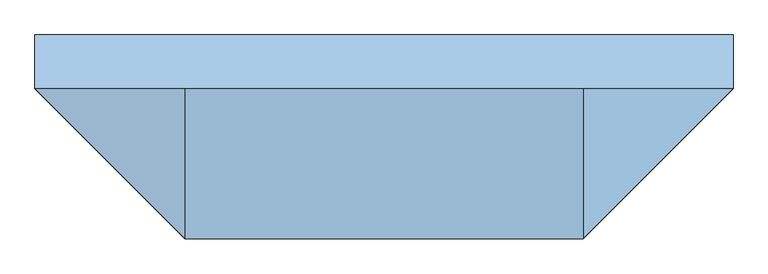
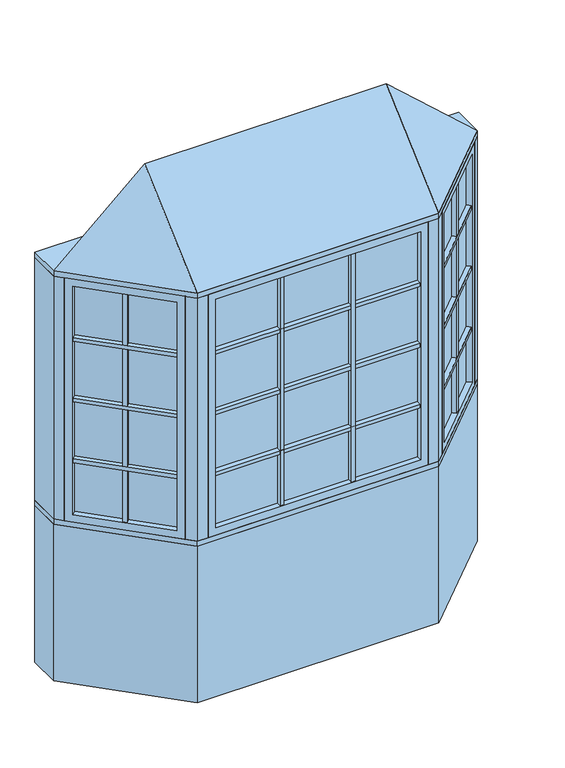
"""IFC4 building model written with IfcOpenShell, lengths in millimetres: window geometry, Pollard_Windows_Tudor Casement Bows and Bays : AML-BAY 45 AFR0512-10-500_GC."""

from ifc_helpers import new_model, si_unit, frame, origin, origin_with_axes, place, context, project, spatial, polyline, outline, extrude, faceted_brep, source, transform, mapped, element, save


def window_ce1bcf7c(model_context):
    return source(origin(), model_context, "Body", "SolidModel", [
        extrude(outline(polyline([(622.8614193, -437.1108753), (607.3050701, -421.5545261), (915.116171, -113.7434252), (930.6725202, -129.2997743), (622.8614193, -437.1108753)])), frame((0.0, 0.0, 1390.998), z_axis=(0.0, 0.0, 1.0), x_axis=(1.0, 0.0, 0.0)), (0.0, 0.0, 1.0), 18.0),
        extrude(outline(polyline([(603.7129677, -417.9624236), (588.1566185, -402.4060744), (895.9677194, -94.5949735), (911.5240686, -110.1513227), (603.7129677, -417.9624236)])), frame((0.0, 0.0, 1390.998), z_axis=(0.0, 0.0, 1.0), x_axis=(1.0, 0.0, 0.0)), (0.0, 0.0, 1.0), 18.0),
        extrude(outline(polyline([(622.8614193, -437.1108753), (607.3050701, -421.5545261), (915.116171, -113.7434252), (930.6725202, -129.2997743), (622.8614193, -437.1108753)])), frame((0.0, 0.0, 1090.998), z_axis=(0.0, 0.0, 1.0), x_axis=(1.0, 0.0, 0.0)), (0.0, 0.0, 1.0), 18.0),
        extrude(outline(polyline([(603.7129677, -417.9624236), (588.1566185, -402.4060744), (895.9677194, -94.5949735), (911.5240686, -110.1513227), (603.7129677, -417.9624236)])), frame((0.0, 0.0, 1090.998), z_axis=(0.0, 0.0, 1.0), x_axis=(1.0, 0.0, 0.0)), (0.0, 0.0, 1.0), 18.0),
        extrude(outline(polyline([(622.8614193, -437.1108753), (607.3050701, -421.5545261), (915.116171, -113.7434252), (930.6725202, -129.2997743), (622.8614193, -437.1108753)])), frame((0.0, 0.0, 1390.998), z_axis=(0.0, 0.0, 1.0), x_axis=(1.0, 0.0, 0.0)), (0.0, 0.0, 1.0), 18.0),
        extrude(outline(polyline([(603.7129677, -417.9624236), (588.1566185, -402.4060744), (895.9677194, -94.5949735), (911.5240686, -110.1513227), (603.7129677, -417.9624236)])), frame((0.0, 0.0, 1390.998), z_axis=(0.0, 0.0, 1.0), x_axis=(1.0, 0.0, 0.0)), (0.0, 0.0, 1.0), 18.0),
        extrude(outline(polyline([(622.8614193, -437.1108753), (607.3050701, -421.5545261), (915.116171, -113.7434252), (930.6725202, -129.2997743), (622.8614193, -437.1108753)])), frame((0.0, 0.0, 1390.998), z_axis=(0.0, 0.0, 1.0), x_axis=(1.0, 0.0, 0.0)), (0.0, 0.0, 1.0), 18.0),
        extrude(outline(polyline([(603.7129677, -417.9624236), (588.1566185, -402.4060744), (895.9677194, -94.5949735), (911.5240686, -110.1513227), (603.7129677, -417.9624236)])), frame((0.0, 0.0, 1390.998), z_axis=(0.0, 0.0, 1.0), x_axis=(1.0, 0.0, 0.0)), (0.0, 0.0, 1.0), 18.0),
        extrude(outline(polyline([(622.8614193, -437.1108753), (607.3050701, -421.5545261), (915.116171, -113.7434252), (930.6725202, -129.2997743), (622.8614193, -437.1108753)])), frame((0.0, 0.0, 1690.998), z_axis=(0.0, 0.0, 1.0), x_axis=(1.0, 0.0, 0.0)), (0.0, 0.0, 1.0), 18.0),
        extrude(outline(polyline([(603.7129677, -417.9624236), (588.1566185, -402.4060744), (895.9677194, -94.5949735), (911.5240686, -110.1513227), (603.7129677, -417.9624236)])), frame((0.0, 0.0, 1690.998), z_axis=(0.0, 0.0, 1.0), x_axis=(1.0, 0.0, 0.0)), (0.0, 0.0, 1.0), 18.0),
        extrude(outline(polyline([(767.5745816, -261.2850146), (783.1309308, -276.8413638), (770.4030087, -289.5692858), (754.8466595, -274.0129366), (767.5745816, -261.2850146)])), frame((0.0, 0.0, 835.8628), z_axis=(0.0, 0.0, 1.0), x_axis=(1.0, 0.0, 0.0)), (0.0, 0.0, 1.0), 1128.2704),
        extrude(outline(polyline([(763.9824791, -257.6929121), (751.2545571, -270.4208342), (735.6982079, -254.864485), (748.42613, -242.1365629), (763.9824791, -257.6929121)])), frame((0.0, 0.0, 835.8628), z_axis=(0.0, 0.0, 1.0), x_axis=(1.0, 0.0, 0.0)), (0.0, 0.0, 1.0), 1128.2704),
        extrude(outline(polyline([(924.0964271, -104.763169), (598.324814, -430.5347822), (594.7327115, -426.9426797), (920.5043247, -101.1710666), (924.0964271, -104.763169)])), frame((0.0, 0.0, 823.1628), z_axis=(0.0, 0.0, 1.0), x_axis=(1.0, 0.0, 0.0)), (0.0, 0.0, 1.0), 1153.6704),
        faceted_brep([(915.116171, -113.7434252, 835.8628), (933.0766833, -131.7039374, 835.8628), (933.0766833, -131.7039374, 1964.1332), (915.116171, -113.7434252, 1964.1332), (920.5043247, -101.1710666, 823.1628), (924.0964271, -104.763169, 823.1628), (924.0964271, -104.763169, 1976.8332), (920.5043247, -101.1710666, 1976.8332), (893.5635563, -92.1908105, 835.8628), (911.5240686, -110.1513227, 835.8628), (911.5240686, -110.1513227, 1964.1332), (893.5635563, -92.1908105, 1964.1332), (958.4369265, -106.3436941, 799.998), (918.9237996, -66.8305672, 799.998), (918.9237996, -66.8305672, 1999.998), (958.4369265, -106.3436941, 1999.998), (625.2655823, -439.5150383, 1964.1332), (607.3050701, -421.5545261, 1964.1332), (598.324814, -430.5347822, 1976.8332), (594.7327115, -426.9426797, 1976.8332), (603.7129677, -417.9624236, 1964.1332), (585.7524554, -400.0019114, 1964.1332), (560.3922121, -425.3621547, 1999.998), (599.9053391, -464.8752816, 1999.998), (625.2655823, -439.5150383, 835.8628), (607.3050701, -421.5545261, 835.8628), (598.324814, -430.5347822, 823.1628), (594.7327115, -426.9426797, 823.1628), (603.7129677, -417.9624236, 835.8628), (585.7524554, -400.0019114, 835.8628), (560.3922121, -425.3621547, 799.998), (599.9053391, -464.8752816, 799.998)], [[[0, 1, 2, 3]], [[4, 5, 6, 7]], [[8, 9, 10, 11]], [[12, 13, 14, 15]], [[3, 2, 16, 17]], [[7, 6, 18, 19]], [[11, 10, 20, 21]], [[15, 14, 22, 23]], [[17, 16, 24, 25]], [[19, 18, 26, 27]], [[21, 20, 28, 29]], [[23, 22, 30, 31]], [[25, 24, 1, 0]], [[5, 26, 18, 6], [3, 17, 25, 0]], [[27, 26, 5, 4]], [[7, 19, 27, 4], [9, 28, 20, 10]], [[29, 28, 9, 8]], [[13, 30, 22, 14], [11, 21, 29, 8]], [[31, 30, 13, 12]], [[15, 23, 31, 12], [1, 24, 16, 2]]]),
        extrude(outline(polyline([(175.7952, -474.8306207), (175.7952, -496.8306207), (157.7952, -496.8306207), (157.7952, -474.8306207), (175.7952, -474.8306207)])), frame((0.0, 0.0, 835.8628), z_axis=(0.0, 0.0, 1.0), x_axis=(1.0, 0.0, 0.0)), (0.0, 0.0, 1.0), 1128.2704),
        extrude(outline(polyline([(175.7952, -469.7506207), (157.7952, -469.7506207), (157.7952, -447.7506207), (175.7952, -447.7506207), (175.7952, -469.7506207)])), frame((0.0, 0.0, 835.8628), z_axis=(0.0, 0.0, 1.0), x_axis=(1.0, 0.0, 0.0)), (0.0, 0.0, 1.0), 1128.2704),
        extrude(outline(polyline([(-157.7952, -474.8306207), (-157.7952, -496.8306207), (-175.7952, -496.8306207), (-175.7952, -474.8306207), (-157.7952, -474.8306207)])), frame((0.0, 0.0, 835.8628), z_axis=(0.0, 0.0, 1.0), x_axis=(1.0, 0.0, 0.0)), (0.0, 0.0, 1.0), 1128.2704),
        extrude(outline(polyline([(-157.7952, -469.7506207), (-175.7952, -469.7506207), (-175.7952, -447.7506207), (-157.7952, -447.7506207), (-157.7952, -469.7506207)])), frame((0.0, 0.0, 835.8628), z_axis=(0.0, 0.0, 1.0), x_axis=(1.0, 0.0, 0.0)), (0.0, 0.0, 1.0), 1128.2704),
        extrude(outline(polyline([(-478.6852, -496.8306207), (-478.6852, -474.8306207), (478.6852, -474.8306207), (478.6852, -496.8306207), (-478.6852, -496.8306207)])), frame((0.0, 0.0, 1090.998), z_axis=(0.0, 0.0, 1.0), x_axis=(1.0, 0.0, 0.0)), (0.0, 0.0, 1.0), 18.0),
        extrude(outline(polyline([(-478.6852, -469.7506207), (-478.6852, -447.7506207), (478.6852, -447.7506207), (478.6852, -469.7506207), (-478.6852, -469.7506207)])), frame((0.0, 0.0, 1090.998), z_axis=(0.0, 0.0, 1.0), x_axis=(1.0, 0.0, 0.0)), (0.0, 0.0, 1.0), 18.0),
        extrude(outline(polyline([(-478.6852, -496.8306207), (-478.6852, -474.8306207), (478.6852, -474.8306207), (478.6852, -496.8306207), (-478.6852, -496.8306207)])), frame((0.0, 0.0, 1390.998), z_axis=(0.0, 0.0, 1.0), x_axis=(1.0, 0.0, 0.0)), (0.0, 0.0, 1.0), 18.0),
        extrude(outline(polyline([(-478.6852, -469.7506207), (-478.6852, -447.7506207), (478.6852, -447.7506207), (478.6852, -469.7506207), (-478.6852, -469.7506207)])), frame((0.0, 0.0, 1390.998), z_axis=(0.0, 0.0, 1.0), x_axis=(1.0, 0.0, 0.0)), (0.0, 0.0, 1.0), 18.0),
        extrude(outline(polyline([(-478.6852, -496.8306207), (-478.6852, -474.8306207), (478.6852, -474.8306207), (478.6852, -496.8306207), (-478.6852, -496.8306207)])), frame((0.0, 0.0, 1390.998), z_axis=(0.0, 0.0, 1.0), x_axis=(1.0, 0.0, 0.0)), (0.0, 0.0, 1.0), 18.0),
        extrude(outline(polyline([(-478.6852, -469.7506207), (-478.6852, -447.7506207), (478.6852, -447.7506207), (478.6852, -469.7506207), (-478.6852, -469.7506207)])), frame((0.0, 0.0, 1390.998), z_axis=(0.0, 0.0, 1.0), x_axis=(1.0, 0.0, 0.0)), (0.0, 0.0, 1.0), 18.0),
        extrude(outline(polyline([(-478.6852, -496.8306207), (-478.6852, -474.8306207), (478.6852, -474.8306207), (478.6852, -496.8306207), (-478.6852, -496.8306207)])), frame((0.0, 0.0, 1390.998), z_axis=(0.0, 0.0, 1.0), x_axis=(1.0, 0.0, 0.0)), (0.0, 0.0, 1.0), 18.0),
        extrude(outline(polyline([(-478.6852, -469.7506207), (-478.6852, -447.7506207), (478.6852, -447.7506207), (478.6852, -469.7506207), (-478.6852, -469.7506207)])), frame((0.0, 0.0, 1390.998), z_axis=(0.0, 0.0, 1.0), x_axis=(1.0, 0.0, 0.0)), (0.0, 0.0, 1.0), 18.0),
        extrude(outline(polyline([(-930.6725202, -129.2997743), (-915.116171, -113.7434252), (-607.3050701, -421.5545261), (-622.8614193, -437.1108753), (-930.6725202, -129.2997743)])), frame((0.0, 0.0, 1090.998), z_axis=(0.0, 0.0, 1.0), x_axis=(1.0, 0.0, 0.0)), (0.0, 0.0, 1.0), 18.0),
        extrude(outline(polyline([(-911.5240686, -110.1513227), (-895.9677194, -94.5949735), (-588.1566185, -402.4060744), (-603.7129677, -417.9624236), (-911.5240686, -110.1513227)])), frame((0.0, 0.0, 1090.998), z_axis=(0.0, 0.0, 1.0), x_axis=(1.0, 0.0, 0.0)), (0.0, 0.0, 1.0), 18.0),
        extrude(outline(polyline([(-930.6725202, -129.2997743), (-915.116171, -113.7434252), (-607.3050701, -421.5545261), (-622.8614193, -437.1108753), (-930.6725202, -129.2997743)])), frame((0.0, 0.0, 1390.998), z_axis=(0.0, 0.0, 1.0), x_axis=(1.0, 0.0, 0.0)), (0.0, 0.0, 1.0), 18.0),
        extrude(outline(polyline([(-911.5240686, -110.1513227), (-895.9677194, -94.5949735), (-588.1566185, -402.4060744), (-603.7129677, -417.9624236), (-911.5240686, -110.1513227)])), frame((0.0, 0.0, 1390.998), z_axis=(0.0, 0.0, 1.0), x_axis=(1.0, 0.0, 0.0)), (0.0, 0.0, 1.0), 18.0),
        extrude(outline(polyline([(-930.6725202, -129.2997743), (-915.116171, -113.7434252), (-607.3050701, -421.5545261), (-622.8614193, -437.1108753), (-930.6725202, -129.2997743)])), frame((0.0, 0.0, 1390.998), z_axis=(0.0, 0.0, 1.0), x_axis=(1.0, 0.0, 0.0)), (0.0, 0.0, 1.0), 18.0),
        extrude(outline(polyline([(-911.5240686, -110.1513227), (-895.9677194, -94.5949735), (-588.1566185, -402.4060744), (-603.7129677, -417.9624236), (-911.5240686, -110.1513227)])), frame((0.0, 0.0, 1390.998), z_axis=(0.0, 0.0, 1.0), x_axis=(1.0, 0.0, 0.0)), (0.0, 0.0, 1.0), 18.0),
        extrude(outline(polyline([(-930.6725202, -129.2997743), (-915.116171, -113.7434252), (-607.3050701, -421.5545261), (-622.8614193, -437.1108753), (-930.6725202, -129.2997743)])), frame((0.0, 0.0, 1390.998), z_axis=(0.0, 0.0, 1.0), x_axis=(1.0, 0.0, 0.0)), (0.0, 0.0, 1.0), 18.0),
        extrude(outline(polyline([(-911.5240686, -110.1513227), (-895.9677194, -94.5949735), (-588.1566185, -402.4060744), (-603.7129677, -417.9624236), (-911.5240686, -110.1513227)])), frame((0.0, 0.0, 1390.998), z_axis=(0.0, 0.0, 1.0), x_axis=(1.0, 0.0, 0.0)), (0.0, 0.0, 1.0), 18.0),
        extrude(outline(polyline([(-930.6725202, -129.2997743), (-915.116171, -113.7434252), (-607.3050701, -421.5545261), (-622.8614193, -437.1108753), (-930.6725202, -129.2997743)])), frame((0.0, 0.0, 1690.998), z_axis=(0.0, 0.0, 1.0), x_axis=(1.0, 0.0, 0.0)), (0.0, 0.0, 1.0), 18.0),
        extrude(outline(polyline([(-911.5240686, -110.1513227), (-895.9677194, -94.5949735), (-588.1566185, -402.4060744), (-603.7129677, -417.9624236), (-911.5240686, -110.1513227)])), frame((0.0, 0.0, 1690.998), z_axis=(0.0, 0.0, 1.0), x_axis=(1.0, 0.0, 0.0)), (0.0, 0.0, 1.0), 18.0),
        extrude(outline(polyline([(-478.6852, -496.8306207), (-478.6852, -474.8306207), (478.6852, -474.8306207), (478.6852, -496.8306207), (-478.6852, -496.8306207)])), frame((0.0, 0.0, 1690.998), z_axis=(0.0, 0.0, 1.0), x_axis=(1.0, 0.0, 0.0)), (0.0, 0.0, 1.0), 18.0),
        extrude(outline(polyline([(-478.6852, -469.7506207), (-478.6852, -447.7506207), (478.6852, -447.7506207), (478.6852, -469.7506207), (-478.6852, -469.7506207)])), frame((0.0, 0.0, 1690.998), z_axis=(0.0, 0.0, 1.0), x_axis=(1.0, 0.0, 0.0)), (0.0, 0.0, 1.0), 18.0),
        extrude(outline(polyline([(-754.8466595, -274.0129366), (-770.4030087, -289.5692858), (-783.1309308, -276.8413638), (-767.5745816, -261.2850146), (-754.8466595, -274.0129366)])), frame((0.0, 0.0, 835.8628), z_axis=(0.0, 0.0, 1.0), x_axis=(1.0, 0.0, 0.0)), (0.0, 0.0, 1.0), 1128.2704),
        extrude(outline(polyline([(-751.2545571, -270.4208342), (-763.9824791, -257.6929121), (-748.42613, -242.1365629), (-735.6982079, -254.864485), (-751.2545571, -270.4208342)])), frame((0.0, 0.0, 835.8628), z_axis=(0.0, 0.0, 1.0), x_axis=(1.0, 0.0, 0.0)), (0.0, 0.0, 1.0), 1128.2704),
        extrude(outline(polyline([(-598.324814, -430.5347822), (-924.0964271, -104.763169), (-920.5043247, -101.1710666), (-594.7327115, -426.9426797), (-598.324814, -430.5347822)])), frame((0.0, 0.0, 823.1628), z_axis=(0.0, 0.0, 1.0), x_axis=(1.0, 0.0, 0.0)), (0.0, 0.0, 1.0), 1153.6704),
        faceted_brep([(-603.7129677, -417.9624236, 1964.1332), (-585.7524554, -400.0019114, 1964.1332), (-585.7524554, -400.0019114, 835.8628), (-603.7129677, -417.9624236, 835.8628), (-598.324814, -430.5347822, 1976.8332), (-594.7327115, -426.9426797, 1976.8332), (-594.7327115, -426.9426797, 823.1628), (-598.324814, -430.5347822, 823.1628), (-625.2655823, -439.5150383, 1964.1332), (-607.3050701, -421.5545261, 1964.1332), (-607.3050701, -421.5545261, 835.8628), (-625.2655823, -439.5150383, 835.8628), (-560.3922121, -425.3621547, 1999.998), (-599.9053391, -464.8752816, 1999.998), (-599.9053391, -464.8752816, 799.998), (-560.3922121, -425.3621547, 799.998), (-893.5635563, -92.1908105, 835.8628), (-911.5240686, -110.1513227, 835.8628), (-920.5043247, -101.1710666, 823.1628), (-924.0964271, -104.763169, 823.1628), (-915.116171, -113.7434252, 835.8628), (-933.0766833, -131.7039374, 835.8628), (-958.4369265, -106.3436941, 799.998), (-918.9237996, -66.8305672, 799.998), (-893.5635563, -92.1908105, 1964.1332), (-911.5240686, -110.1513227, 1964.1332), (-920.5043247, -101.1710666, 1976.8332), (-924.0964271, -104.763169, 1976.8332), (-915.116171, -113.7434252, 1964.1332), (-933.0766833, -131.7039374, 1964.1332), (-958.4369265, -106.3436941, 1999.998), (-918.9237996, -66.8305672, 1999.998)], [[[0, 1, 2, 3]], [[4, 5, 6, 7]], [[8, 9, 10, 11]], [[12, 13, 14, 15]], [[3, 2, 16, 17]], [[7, 6, 18, 19]], [[11, 10, 20, 21]], [[15, 14, 22, 23]], [[17, 16, 24, 25]], [[19, 18, 26, 27]], [[21, 20, 28, 29]], [[23, 22, 30, 31]], [[15, 23, 31, 12], [1, 24, 16, 2]], [[25, 24, 1, 0]], [[5, 26, 18, 6], [3, 17, 25, 0]], [[27, 26, 5, 4]], [[7, 19, 27, 4], [9, 28, 20, 10]], [[29, 28, 9, 8]], [[13, 30, 22, 14], [11, 21, 29, 8]], [[31, 30, 13, 12]]]),
        extrude(outline(polyline([(491.3852, -474.8306207), (-491.3852, -474.8306207), (-491.3852, -469.7506207), (491.3852, -469.7506207), (491.3852, -474.8306207)])), frame((0.0, 0.0, 823.1628), z_axis=(0.0, 0.0, 1.0), x_axis=(1.0, 0.0, 0.0)), (0.0, 0.0, 1.0), 1153.6704),
        faceted_brep([(478.6852, -474.8306207, 835.8628), (478.6852, -500.2306207, 835.8628), (478.6852, -500.2306207, 1964.1332), (478.6852, -474.8306207, 1964.1332), (491.3852, -469.7506207, 823.1628), (491.3852, -474.8306207, 823.1628), (491.3852, -474.8306207, 1976.8332), (491.3852, -469.7506207, 1976.8332), (478.6852, -444.3506207, 835.8628), (478.6852, -469.7506207, 835.8628), (478.6852, -469.7506207, 1964.1332), (478.6852, -444.3506207, 1964.1332), (514.55, -500.2306207, 799.998), (514.55, -444.3506207, 799.998), (514.55, -444.3506207, 1999.998), (514.55, -500.2306207, 1999.998), (-478.6852, -500.2306207, 1964.1332), (-478.6852, -474.8306207, 1964.1332), (-491.3852, -474.8306207, 1976.8332), (-491.3852, -469.7506207, 1976.8332), (-478.6852, -469.7506207, 1964.1332), (-478.6852, -444.3506207, 1964.1332), (-514.55, -444.3506207, 1999.998), (-514.55, -500.2306207, 1999.998), (-478.6852, -500.2306207, 835.8628), (-478.6852, -474.8306207, 835.8628), (-491.3852, -474.8306207, 823.1628), (-491.3852, -469.7506207, 823.1628), (-478.6852, -469.7506207, 835.8628), (-478.6852, -444.3506207, 835.8628), (-514.55, -444.3506207, 799.998), (-514.55, -500.2306207, 799.998)], [[[0, 1, 2, 3]], [[4, 5, 6, 7]], [[8, 9, 10, 11]], [[12, 13, 14, 15]], [[3, 2, 16, 17]], [[7, 6, 18, 19]], [[11, 10, 20, 21]], [[15, 14, 22, 23]], [[17, 16, 24, 25]], [[19, 18, 26, 27]], [[21, 20, 28, 29]], [[23, 22, 30, 31]], [[15, 23, 31, 12], [1, 24, 16, 2]], [[25, 24, 1, 0]], [[5, 26, 18, 6], [3, 17, 25, 0]], [[27, 26, 5, 4]], [[7, 19, 27, 4], [9, 28, 20, 10]], [[29, 28, 9, 8]], [[13, 30, 22, 14], [11, 21, 29, 8]], [[31, 30, 13, 12]]]),
        faceted_brep([(990.0, -74.7806207, 2025.398), (564.55, -500.2306207, 2025.398), (-564.55, -500.2306207, 2025.398), (-990.0, -74.7806207, 2025.398), (-564.55, -74.7806207, 2406.398), (564.55, -74.7806207, 2406.398)], [[[0, 1, 2, 3]], [[3, 2, 4]], [[2, 1, 5, 4]], [[1, 0, 5]], [[0, 3, 4, 5]]]),
        extrude(outline(polyline([(-990.0, 77.6193793), (990.0, 77.6193793), (990.0, -74.7806207), (564.55, -500.2306207), (-564.55, -500.2306207), (-990.0, -74.7806207), (-990.0, 77.6193793)])), frame((0.0, 0.0, 1999.998), z_axis=(0.0, 0.0, 1.0), x_axis=(1.0, 0.0, 0.0)), (0.0, 0.0, 1.0), 25.4),
        extrude(outline(polyline([(-990.0, -74.7806207), (-990.0, 77.6193793), (-926.8738531, 77.6193793), (-926.8738531, -74.7806207), (-958.4369265, -106.3436941), (-990.0, -74.7806207)])), frame((0.0, 0.0, 799.998), z_axis=(0.0, 0.0, 1.0), x_axis=(1.0, 0.0, 0.0)), (0.0, 0.0, 1.0), 1200.0),
        extrude(outline(polyline([(990.0, 77.6193793), (990.0, -74.7806207), (958.4369265, -106.3436941), (926.8738531, -74.7806207), (926.8738531, 77.6193793), (990.0, 77.6193793)])), frame((0.0, 0.0, 799.998), z_axis=(0.0, 0.0, 1.0), x_axis=(1.0, 0.0, 0.0)), (0.0, 0.0, 1.0), 1200.0),
        extrude(outline(polyline([(564.55, -500.2306207), (514.55, -500.2306207), (514.55, -450.2306207), (543.8393219, -450.2306207), (564.55, -429.5199425), (599.9053391, -464.8752816), (564.55, -500.2306207)])), frame((0.0, 0.0, 799.998), z_axis=(0.0, 0.0, 1.0), x_axis=(1.0, 0.0, 0.0)), (0.0, 0.0, 1.0), 1200.0),
        extrude(outline(polyline([(-564.55, -500.2306207), (-599.9053391, -464.8752816), (-564.55, -429.5199425), (-543.8393219, -450.2306207), (-514.55, -450.2306207), (-514.55, -500.2306207), (-564.55, -500.2306207)])), frame((0.0, 0.0, 799.998), z_axis=(0.0, 0.0, 1.0), x_axis=(1.0, 0.0, 0.0)), (0.0, 0.0, 1.0), 1200.0),
        extrude(outline(polyline([(-564.55, -500.2306207), (-990.0, -74.7806207), (-990.0, 77.6193793), (-926.8738531, 77.6193793), (-501.4238531, -347.8306207), (501.4238531, -347.8306207), (926.8738531, 77.6193793), (990.0, 77.6193793), (990.0, -74.7806207), (564.55, -500.2306207), (-564.55, -500.2306207)])), frame((0.0, 0.0, 774.598), z_axis=(0.0, 0.0, 1.0), x_axis=(1.0, 0.0, 0.0)), (0.0, 0.0, 1.0), 25.4),
        extrude(outline(polyline([(-990.0, -74.7806207), (-990.0, 77.6193793), (-926.8738531, 77.6193793), (-501.4238531, -347.8306207), (501.4238531, -347.8306207), (926.8738531, 77.6193793), (990.0, 77.6193793), (990.0, -74.7806207), (564.55, -500.2306207), (-564.55, -500.2306207), (-990.0, -74.7806207)])), origin_with_axes(), (0.0, 0.0, 1.0), 774.598),
    ])


if __name__ == "__main__":
    model = new_model("IFC4")
    model_context = context("Model", 3, world=origin())
    ifc_project = project(units=[si_unit("LENGTHUNIT", "METRE", prefix="MILLI")], contexts=[model_context])
    site = spatial("IfcSite", under=ifc_project)
    building = spatial("IfcBuilding", under=site)
    placement = place(None, origin())
    window_shape = window_ce1bcf7c(model_context)
    element("IfcWindow", 1, ObjectType="Pollard_Windows_Tudor Casement Bows and Bays : AML-BAY 45 AFR0512-10-500_GC", at=placement, inside=building, context=model_context, shape_type="MappedRepresentation", body=[
        mapped(window_shape, transform((0.0, 0.0, 0.0), x_axis=(1.0, 0.0, 0.0), y_axis=(0.0, 1.0, 0.0), z_axis=(0.0, 0.0, 1.0))),
    ])
    save(model, "model.ifc")
